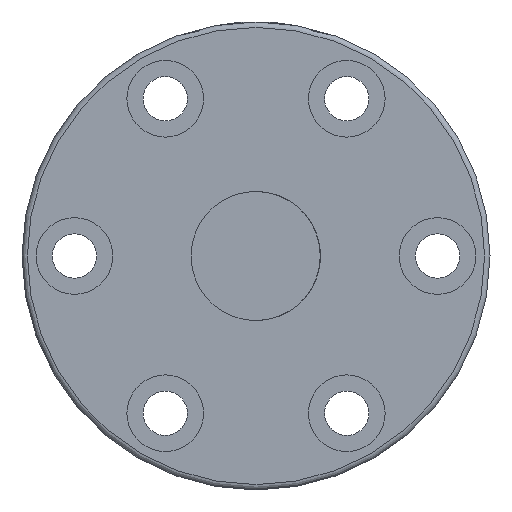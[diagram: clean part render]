
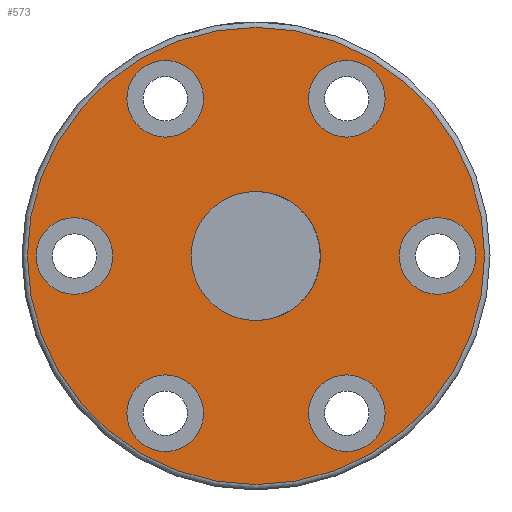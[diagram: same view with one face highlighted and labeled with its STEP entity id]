
A CAD part, front view. The second image highlights one B-rep face of the part: STEP entity #573.
In plain terms, the highlighted planar face has unit normal (0, -1, 0).
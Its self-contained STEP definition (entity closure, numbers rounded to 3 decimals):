
#13 = FACE_BOUND ( 'NONE', #658, .T. ) ;
#47 = CARTESIAN_POINT ( 'NONE',  ( -11.211, -28.461, 19.486 ) ) ;
#69 = AXIS2_PLACEMENT_3D ( 'NONE', #1359, #353, #582 ) ;
#89 = DIRECTION ( 'NONE',  ( 0., 1., 0. ) ) ;
#97 = ORIENTED_EDGE ( 'NONE', *, *, #845, .T. ) ;
#100 = DIRECTION ( 'NONE',  ( 0., 0., 1. ) ) ;
#102 = CARTESIAN_POINT ( 'NONE',  ( -11.211, -28.461, -14.736 ) ) ;
#112 = CIRCLE ( 'NONE', #762, 8. ) ;
#130 = ORIENTED_EDGE ( 'NONE', *, *, #1051, .T. ) ;
#196 = EDGE_LOOP ( 'NONE', ( #758 ) ) ;
#250 = CARTESIAN_POINT ( 'NONE',  ( 22.539, -28.461, 4.75 ) ) ;
#261 = AXIS2_PLACEMENT_3D ( 'NONE', #977, #660, #100 ) ;
#294 = DIRECTION ( 'NONE',  ( 0., 0., 1. ) ) ;
#322 = CIRCLE ( 'NONE', #1265, 4.75 ) ;
#337 = FACE_BOUND ( 'NONE', #581, .T. ) ;
#353 = DIRECTION ( 'NONE',  ( 0., 1., 0. ) ) ;
#360 = VERTEX_POINT ( 'NONE', #1131 ) ;
#365 = FACE_BOUND ( 'NONE', #722, .T. ) ;
#370 = EDGE_CURVE ( 'NONE', #778, #778, #885, .T. ) ;
#382 = ORIENTED_EDGE ( 'NONE', *, *, #1329, .T. ) ;
#454 = VERTEX_POINT ( 'NONE', #102 ) ;
#456 = EDGE_LOOP ( 'NONE', ( #97 ) ) ;
#468 = PLANE ( 'NONE',  #1288 ) ;
#469 = DIRECTION ( 'NONE',  ( 0., 1., 0. ) ) ;
#502 = EDGE_CURVE ( 'NONE', #665, #665, #639, .T. ) ;
#516 = DIRECTION ( 'NONE',  ( 0., 1., 0. ) ) ;
#523 = CIRCLE ( 'NONE', #1325, 4.75 ) ;
#532 = DIRECTION ( 'NONE',  ( 0., -1., 0. ) ) ;
#552 = VERTEX_POINT ( 'NONE', #562 ) ;
#558 = CIRCLE ( 'NONE', #1383, 4.75 ) ;
#562 = CARTESIAN_POINT ( 'NONE',  ( 11.289, -28.461, -14.736 ) ) ;
#570 = VERTEX_POINT ( 'NONE', #250 ) ;
#573 = ADVANCED_FACE ( 'NONE', ( #1030, #337, #1011, #576, #365, #1018, #820, #13 ), #468, .F. ) ;
#576 = FACE_BOUND ( 'NONE', #456, .T. ) ;
#581 = EDGE_LOOP ( 'NONE', ( #963 ) ) ;
#582 = DIRECTION ( 'NONE',  ( 0., 0., 1. ) ) ;
#589 = AXIS2_PLACEMENT_3D ( 'NONE', #1296, #532, #633 ) ;
#621 = ORIENTED_EDGE ( 'NONE', *, *, #502, .T. ) ;
#633 = DIRECTION ( 'NONE',  ( 0., 0., 1. ) ) ;
#634 = AXIS2_PLACEMENT_3D ( 'NONE', #47, #1395, #294 ) ;
#639 = CIRCLE ( 'NONE', #261, 4.75 ) ;
#658 = EDGE_LOOP ( 'NONE', ( #1331 ) ) ;
#659 = CARTESIAN_POINT ( 'NONE',  ( -11.211, -28.461, 24.236 ) ) ;
#660 = DIRECTION ( 'NONE',  ( 0., 1., 0. ) ) ;
#665 = VERTEX_POINT ( 'NONE', #1108 ) ;
#722 = EDGE_LOOP ( 'NONE', ( #130 ) ) ;
#753 = DIRECTION ( 'NONE',  ( 0., 0., 1. ) ) ;
#758 = ORIENTED_EDGE ( 'NONE', *, *, #1186, .T. ) ;
#762 = AXIS2_PLACEMENT_3D ( 'NONE', #1344, #469, #792 ) ;
#767 = EDGE_LOOP ( 'NONE', ( #1123 ) ) ;
#778 = VERTEX_POINT ( 'NONE', #659 ) ;
#792 = DIRECTION ( 'NONE',  ( -1., 0., 0. ) ) ;
#814 = CARTESIAN_POINT ( 'NONE',  ( 0.039, -28.461, 28.333 ) ) ;
#820 = FACE_BOUND ( 'NONE', #1009, .T. ) ;
#832 = CARTESIAN_POINT ( 'NONE',  ( -22.461, -28.461, 0. ) ) ;
#845 = EDGE_CURVE ( 'NONE', #454, #454, #1027, .T. ) ;
#861 = DIRECTION ( 'NONE',  ( 0., 1., 0. ) ) ;
#876 = DIRECTION ( 'NONE',  ( 0., 0., 1. ) ) ;
#885 = CIRCLE ( 'NONE', #634, 4.75 ) ;
#915 = CARTESIAN_POINT ( 'NONE',  ( 0.039, -28.461, 0. ) ) ;
#959 = EDGE_LOOP ( 'NONE', ( #621 ) ) ;
#963 = ORIENTED_EDGE ( 'NONE', *, *, #370, .T. ) ;
#977 = CARTESIAN_POINT ( 'NONE',  ( 11.289, -28.461, 19.486 ) ) ;
#1009 = EDGE_LOOP ( 'NONE', ( #382 ) ) ;
#1011 = FACE_BOUND ( 'NONE', #959, .T. ) ;
#1018 = FACE_BOUND ( 'NONE', #196, .T. ) ;
#1027 = CIRCLE ( 'NONE', #69, 4.75 ) ;
#1030 = FACE_OUTER_BOUND ( 'NONE', #767, .T. ) ;
#1051 = EDGE_CURVE ( 'NONE', #552, #552, #523, .T. ) ;
#1079 = CIRCLE ( 'NONE', #589, 28.333 ) ;
#1096 = DIRECTION ( 'NONE',  ( 0., 0., 1. ) ) ;
#1108 = CARTESIAN_POINT ( 'NONE',  ( 11.289, -28.461, 24.236 ) ) ;
#1123 = ORIENTED_EDGE ( 'NONE', *, *, #1192, .T. ) ;
#1131 = CARTESIAN_POINT ( 'NONE',  ( -22.461, -28.461, 4.75 ) ) ;
#1186 = EDGE_CURVE ( 'NONE', #360, #360, #558, .T. ) ;
#1192 = EDGE_CURVE ( 'NONE', #1445, #1445, #1079, .T. ) ;
#1225 = CARTESIAN_POINT ( 'NONE',  ( 11.289, -28.461, -19.486 ) ) ;
#1233 = VERTEX_POINT ( 'NONE', #1356 ) ;
#1257 = DIRECTION ( 'NONE',  ( 0., 1., 0. ) ) ;
#1265 = AXIS2_PLACEMENT_3D ( 'NONE', #1424, #89, #876 ) ;
#1288 = AXIS2_PLACEMENT_3D ( 'NONE', #915, #1257, #1300 ) ;
#1296 = CARTESIAN_POINT ( 'NONE',  ( 0.039, -28.461, 0. ) ) ;
#1300 = DIRECTION ( 'NONE',  ( 1., 0., 0. ) ) ;
#1325 = AXIS2_PLACEMENT_3D ( 'NONE', #1225, #861, #753 ) ;
#1329 = EDGE_CURVE ( 'NONE', #570, #570, #322, .T. ) ;
#1331 = ORIENTED_EDGE ( 'NONE', *, *, #1363, .T. ) ;
#1344 = CARTESIAN_POINT ( 'NONE',  ( 0.039, -28.461, 0. ) ) ;
#1356 = CARTESIAN_POINT ( 'NONE',  ( -7.961, -28.461, 0. ) ) ;
#1359 = CARTESIAN_POINT ( 'NONE',  ( -11.211, -28.461, -19.486 ) ) ;
#1363 = EDGE_CURVE ( 'NONE', #1233, #1233, #112, .T. ) ;
#1383 = AXIS2_PLACEMENT_3D ( 'NONE', #832, #516, #1096 ) ;
#1395 = DIRECTION ( 'NONE',  ( 0., 1., 0. ) ) ;
#1424 = CARTESIAN_POINT ( 'NONE',  ( 22.539, -28.461, 0. ) ) ;
#1445 = VERTEX_POINT ( 'NONE', #814 ) ;
